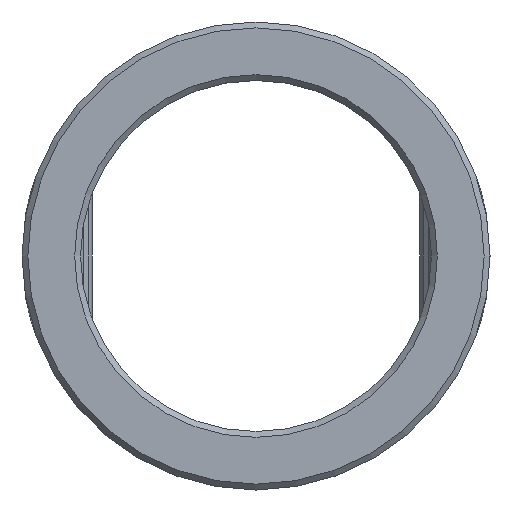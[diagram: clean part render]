
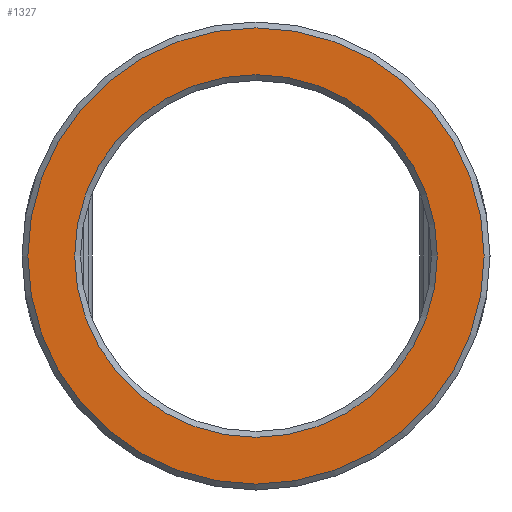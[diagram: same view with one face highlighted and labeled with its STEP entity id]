
A CAD part, left-side view. The second image highlights one B-rep face of the part: STEP entity #1327.
In plain terms, the highlighted planar face has unit normal (-1, 0, 0).
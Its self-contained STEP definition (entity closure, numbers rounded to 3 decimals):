
#1296=CARTESIAN_POINT('',(-7.875,3.1,0.));
#1297=VERTEX_POINT('',#1296);
#1298=CARTESIAN_POINT('',(-7.875,0.0,0.0));
#1299=DIRECTION('',(-1.0,0.0,0.0));
#1300=DIRECTION('',(0.0,-1.0,0.0));
#1301=AXIS2_PLACEMENT_3D('',#1298,#1299,#1300);
#1302=CIRCLE('',#1301,3.1);
#1303=EDGE_CURVE('',#1297,#1297,#1302,.T.);
#1308=CARTESIAN_POINT('',(-7.875,3.5,0.0));
#1309=DIRECTION('',(-1.0,0.0,0.0));
#1310=DIRECTION('',(0.0,0.0,1.0));
#1311=AXIS2_PLACEMENT_3D('',#1308,#1309,#1310);
#1312=PLANE('',#1311);
#1313=CARTESIAN_POINT('',(-7.875,3.9,0.));
#1314=VERTEX_POINT('',#1313);
#1315=CARTESIAN_POINT('',(-7.875,0.0,0.0));
#1316=DIRECTION('',(1.0,0.0,0.0));
#1317=DIRECTION('',(0.0,-1.0,0.0));
#1318=AXIS2_PLACEMENT_3D('',#1315,#1316,#1317);
#1319=CIRCLE('',#1318,3.9);
#1320=EDGE_CURVE('',#1314,#1314,#1319,.T.);
#1321=ORIENTED_EDGE('',*,*,#1320,.F.);
#1322=EDGE_LOOP('',(#1321));
#1323=FACE_OUTER_BOUND('',#1322,.T.);
#1324=ORIENTED_EDGE('',*,*,#1303,.F.);
#1325=EDGE_LOOP('',(#1324));
#1326=FACE_BOUND('',#1325,.T.);
#1327=ADVANCED_FACE('',(#1323,#1326),#1312,.T.);
